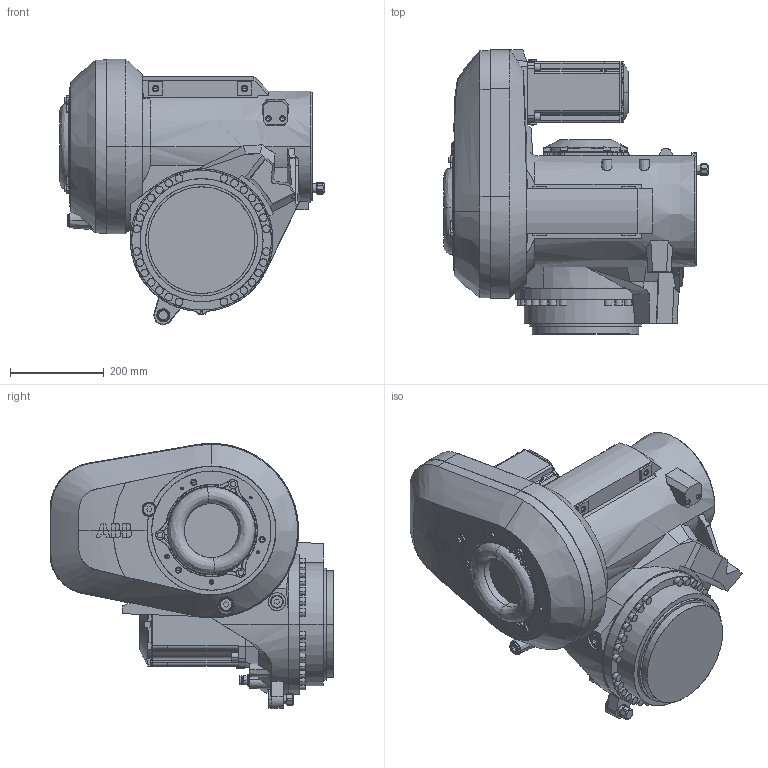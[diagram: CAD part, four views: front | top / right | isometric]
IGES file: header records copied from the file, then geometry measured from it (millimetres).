
Start section: SolidWorks IGES file using analytic representation for surfaces
Global section: file name: C:\Users\seamsto1\Desktop\Lättvikt\IRB6710_200kg-295_OC_00_SW_J\IRB6710_200kg-295_OC_00_IGES_J\IRB6710_200kg-295_OC_00_LINK03_CAD.IGS; native system: SolidWorks 2020; preprocessor: SolidWorks 2020; author: SEAMSTO1; date: 230510.101515; units: millimetre
Bounding box: 565 x 607.2 x 567.07 mm (x, y, z)
Surface area: 1733212.6 mm2 (no closed solid volume)
Topology: 0 solids, 0 shells, 1537 faces, 20300 edges, 20244 vertices
Faces by surface type: bspline 841, revolution 696
